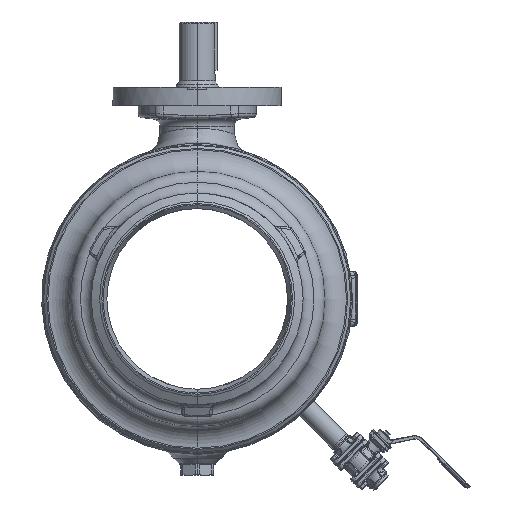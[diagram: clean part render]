
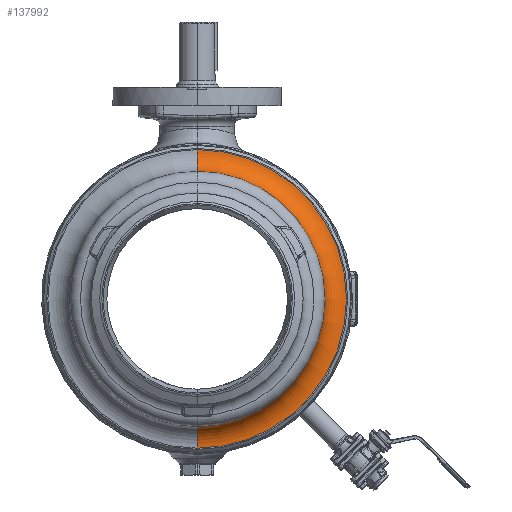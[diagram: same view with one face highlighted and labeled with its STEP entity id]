
A CAD part, left-side view. The second image highlights one B-rep face of the part: STEP entity #137992.
In plain terms, the highlighted toroidal (fillet/blend) face has major radius 248 mm and minor radius 36 mm.
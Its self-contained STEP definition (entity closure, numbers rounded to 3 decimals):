
#31923=CARTESIAN_POINT('',(-135.5,0.,0.));
#31924=DIRECTION('',(1.,0.,0.));
#31925=DIRECTION('',(0.,0.,1.));
#31926=AXIS2_PLACEMENT_3D('',#31923,#31924,#31925);
#31928=CARTESIAN_POINT('',(-171.5,0.,-248.));
#31929=DIRECTION('',(0.,1.,0.));
#31930=DIRECTION('',(0.,0.,1.));
#31931=AXIS2_PLACEMENT_3D('',#31928,#31929,#31930);
#32640=CARTESIAN_POINT('',(-171.5,0.,0.));
#32641=DIRECTION('',(1.,0.,0.));
#32642=DIRECTION('',(0.,0.,1.));
#32643=AXIS2_PLACEMENT_3D('',#32640,#32641,#32642);
#32649=CARTESIAN_POINT('',(-171.5,0.,248.));
#32650=DIRECTION('',(0.,-1.,0.));
#32651=DIRECTION('',(0.,0.,-1.));
#32652=AXIS2_PLACEMENT_3D('',#32649,#32650,#32651);
#66971=CARTESIAN_POINT('',(-171.5,0.,-212.));
#66972=CARTESIAN_POINT('',(-171.5,0.,212.));
#66973=VERTEX_POINT('',#66971);
#66974=VERTEX_POINT('',#66972);
#66975=CARTESIAN_POINT('',(-135.5,0.,-248.));
#66976=CARTESIAN_POINT('',(-135.5,0.,248.));
#66977=VERTEX_POINT('',#66975);
#66978=VERTEX_POINT('',#66976);
#137981=CARTESIAN_POINT('',(-171.5,0.,0.));
#137982=DIRECTION('',(-1.,0.,0.));
#137983=DIRECTION('',(0.,0.,1.));
#137984=AXIS2_PLACEMENT_3D('',#137981,#137982,#137983);
#137985=TOROIDAL_SURFACE('',#137984,248.,36.);
#137986=ORIENTED_EDGE('',*,*,#137975,.F.);
#137987=ORIENTED_EDGE('',*,*,#136633,.T.);
#137988=ORIENTED_EDGE('',*,*,#136618,.T.);
#137989=ORIENTED_EDGE('',*,*,#136630,.F.);
#137990=EDGE_LOOP('',(#137986,#137987,#137988,#137989));
#137991=FACE_OUTER_BOUND('',#137990,.F.);
#137992=ADVANCED_FACE('',(#137991),#137985,.F.);
#31927=CIRCLE('',#31926,248.);
#31932=CIRCLE('',#31931,36.);
#32644=CIRCLE('',#32643,212.);
#32653=CIRCLE('',#32652,36.);
#136618=EDGE_CURVE('',#66978,#66977,#31927,.T.);
#136630=EDGE_CURVE('',#66973,#66977,#31932,.T.);
#136633=EDGE_CURVE('',#66974,#66978,#32653,.T.);
#137975=EDGE_CURVE('',#66974,#66973,#32644,.T.);
